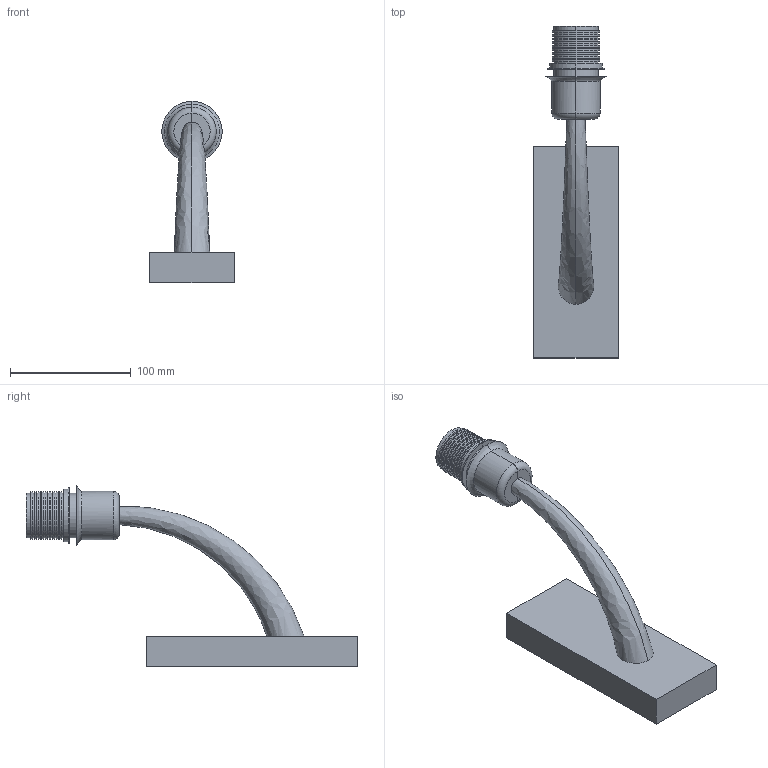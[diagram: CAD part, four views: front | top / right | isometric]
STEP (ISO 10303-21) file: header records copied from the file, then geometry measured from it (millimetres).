
FILE_DESCRIPTION(/* description */ (''),/* implementation_level */ '2;1');
FILE_NAME(/* name */ 'C:\Users\FrancoSartori\Documents\FARO\01_En Proceso\00_REM\03_Publicación\29680.stp',/* time_stamp */ '2021-07-07T12:30:20+02:00',/* author */ ('FrancoSartori'),/* organization */ (''),/* preprocessor_version */ 'ST-DEVELOPER v18.1',/* originating_system */ 'AutoCAD Mechanical',/* authorisation */ '');
FILE_SCHEMA (('AUTOMOTIVE_DESIGN { 1 0 10303 214 3 1 1 }'));
Length unit declared in the file: millimetre
Products named in the file (2): Product; 29680_ 29681_ - structure-569227-_3D_
Assembly tree (1 placements, depth 2):
  Product
    29680_ 29681_ - structure-569227-_3D_
Bounding box: 70 x 274.39 x 150 mm (x, y, z)
Volume: 133506 mm3; surface area: 94081.3 mm2
Topology: 3 solids, 3 shells, 159 faces, 337 edges, 186 vertices
Faces by surface type: plane 85, cylinder 64, torus 8, bspline 2
Entity records: 5177 total; most frequent: CARTESIAN_POINT 1711, DIRECTION 749, ORIENTED_EDGE 674, EDGE_CURVE 337, AXIS2_PLACEMENT_3D 284, VERTEX_POINT 186, LINE 181, VECTOR 181
